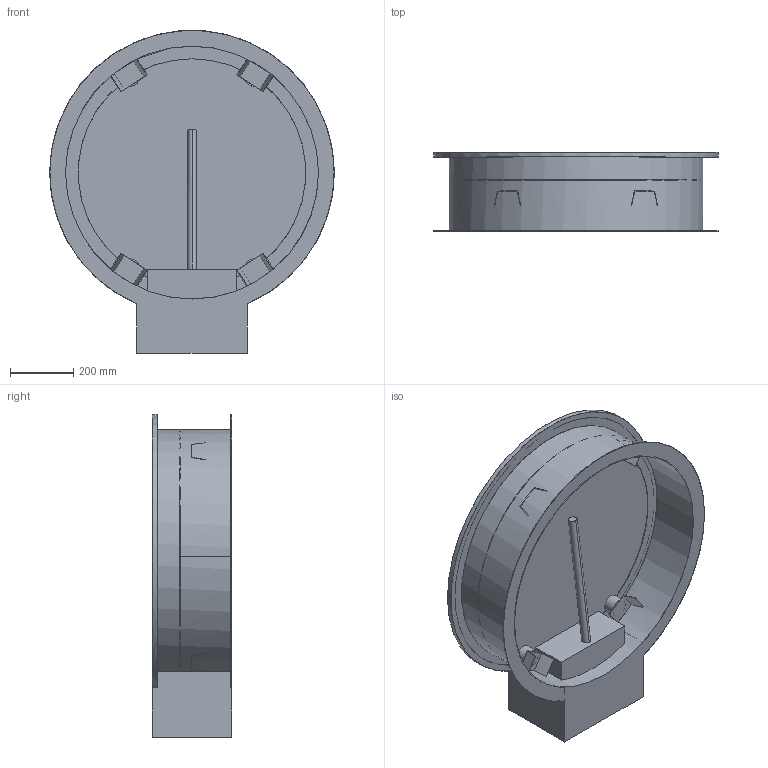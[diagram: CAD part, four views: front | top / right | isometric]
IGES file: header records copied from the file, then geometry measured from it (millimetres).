
Start section:  PTC IGES file: 52346734.igs
Global section: file name: 52346734.igs; native system: Creo Parametric by PTC Inc.; preprocessor: 2022162; author: wep; organization: Unknown; date: 20250124.064802; units: millimetre
Bounding box: 899.87 x 250 x 1021.06 mm (x, y, z)
Surface area: 3479552.9 mm2 (no closed solid volume)
Topology: 0 solids, 0 shells, 111 faces, 552 edges, 552 vertices
Faces by surface type: bspline 68, revolution 43
